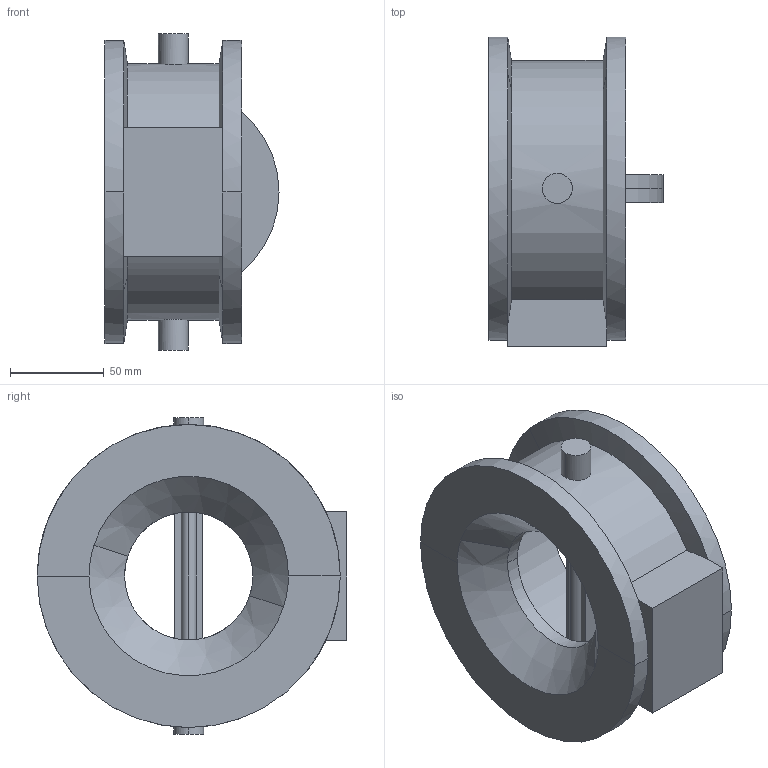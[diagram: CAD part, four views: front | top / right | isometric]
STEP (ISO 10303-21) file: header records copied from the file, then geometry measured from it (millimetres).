
FILE_DESCRIPTION (( 'STEP AP203' ), '1' );
FILE_NAME ('Viega_ProPress_WaferCheckValve_2974-3XL-4in.STEP', '2025-02-19T22:06:48', ( '' ), ( '' ), 'SwSTEP 2.0', 'SolidWorks 2020', '' );
FILE_SCHEMA (( 'CONFIG_CONTROL_DESIGN' ));
Length unit declared in the file: millimetre
Products named in the file (1): Viega_ProPress_WaferCheckValve_2974-3XL-4in
Bounding box: 93 x 165.5 x 169 mm (x, y, z)
Volume: 742206.4 mm3; surface area: 128778.2 mm2
Topology: 4 solids, 4 shells, 48 faces, 106 edges, 66 vertices
Faces by surface type: plane 21, cylinder 19, cone 8
Entity records: 1675 total; most frequent: CARTESIAN_POINT 511, DIRECTION 248, ORIENTED_EDGE 212, EDGE_CURVE 106, AXIS2_PLACEMENT_3D 101, VERTEX_POINT 66, CIRCLE 52, EDGE_LOOP 50
